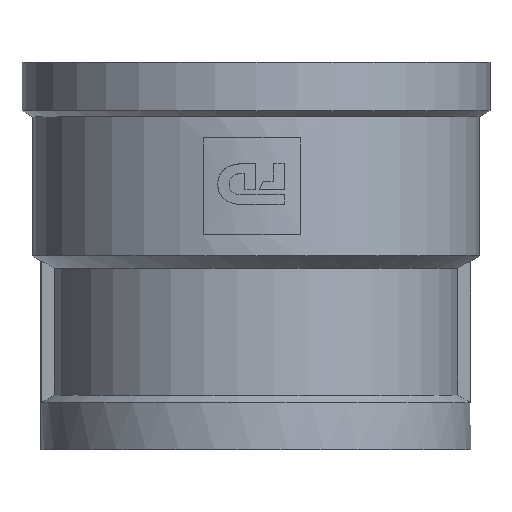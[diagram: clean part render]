
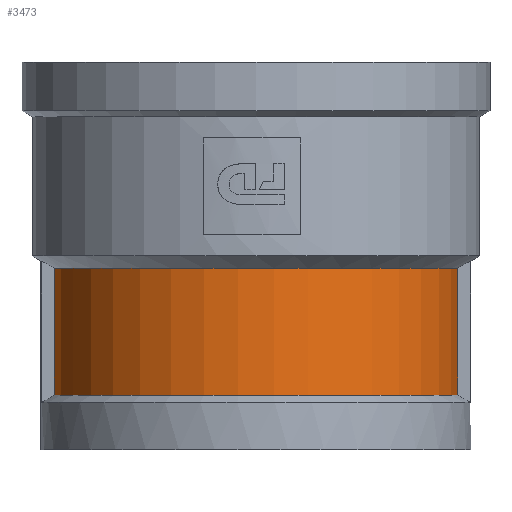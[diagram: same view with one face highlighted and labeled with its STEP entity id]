
A CAD part, left-side view. The second image highlights one B-rep face of the part: STEP entity #3473.
In plain terms, the highlighted cylindrical face has radius 24 mm (diameter 48 mm), a partial arc.
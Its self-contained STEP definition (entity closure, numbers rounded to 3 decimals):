
#355=LINE('',#5962,#588);
#360=LINE('',#5993,#593);
#588=VECTOR('',#4490,10.);
#593=VECTOR('',#4499,10.);
#892=FACE_OUTER_BOUND('',#1097,.T.);
#1097=EDGE_LOOP('',(#2805,#2806,#2807,#2808));
#1308=CIRCLE('',#3794,24.);
#1309=CIRCLE('',#3795,24.);
#1563=VERTEX_POINT('',#5956);
#1565=VERTEX_POINT('',#5961);
#1572=VERTEX_POINT('',#5983);
#1574=VERTEX_POINT('',#5989);
#2014=EDGE_CURVE('',#1565,#1563,#355,.T.);
#2024=EDGE_CURVE('',#1572,#1574,#360,.T.);
#2031=EDGE_CURVE('',#1563,#1572,#1308,.T.);
#2032=EDGE_CURVE('',#1565,#1574,#1309,.T.);
#2805=ORIENTED_EDGE('',*,*,#2014,.T.);
#2806=ORIENTED_EDGE('',*,*,#2031,.T.);
#2807=ORIENTED_EDGE('',*,*,#2024,.T.);
#2808=ORIENTED_EDGE('',*,*,#2032,.F.);
#3304=CYLINDRICAL_SURFACE('',#3793,24.);
#3473=ADVANCED_FACE('',(#892),#3304,.T.);
#3793=AXIS2_PLACEMENT_3D('',#6006,#4516,#4517);
#3794=AXIS2_PLACEMENT_3D('',#6007,#4518,#4519);
#3795=AXIS2_PLACEMENT_3D('',#6008,#4520,#4521);
#4490=DIRECTION('',(0.,0.,-1.));
#4499=DIRECTION('',(0.,0.,1.));
#4516=DIRECTION('center_axis',(0.,0.,1.));
#4517=DIRECTION('ref_axis',(0.,-1.,0.));
#4518=DIRECTION('center_axis',(0.,0.,1.));
#4519=DIRECTION('ref_axis',(1.,0.,0.));
#4520=DIRECTION('center_axis',(0.,0.,1.));
#4521=DIRECTION('ref_axis',(1.,0.,0.));
#5956=CARTESIAN_POINT('',(-2.232,23.896,1.817));
#5961=CARTESIAN_POINT('',(-2.232,23.896,16.873));
#5962=CARTESIAN_POINT('',(-2.232,23.896,9.345));
#5983=CARTESIAN_POINT('',(-2.232,-23.896,1.817));
#5989=CARTESIAN_POINT('',(-2.232,-23.896,16.873));
#5993=CARTESIAN_POINT('',(-2.232,-23.896,9.345));
#6006=CARTESIAN_POINT('Origin',(0.,0.,9.345));
#6007=CARTESIAN_POINT('Origin',(0.,0.,1.817));
#6008=CARTESIAN_POINT('Origin',(0.,0.,16.873));
